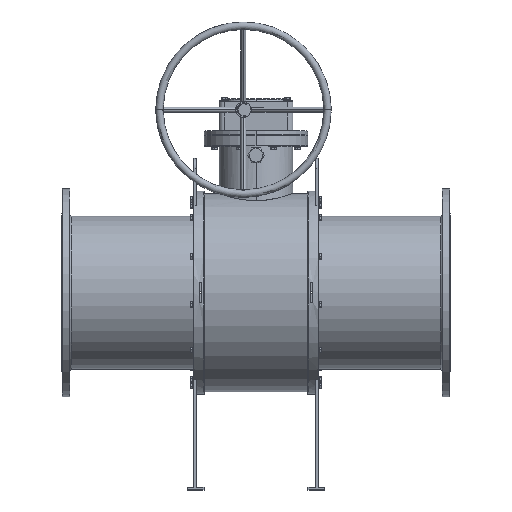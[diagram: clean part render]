
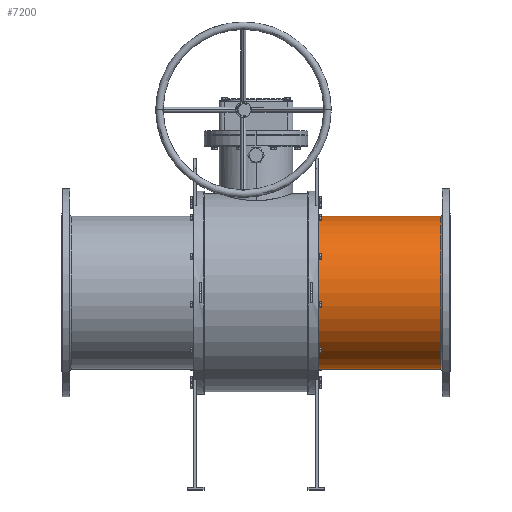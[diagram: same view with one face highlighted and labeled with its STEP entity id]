
A CAD part, top view. The second image highlights one B-rep face of the part: STEP entity #7200.
In plain terms, the highlighted cylindrical face has radius 305.75 mm (diameter 611.5 mm), a partial arc.
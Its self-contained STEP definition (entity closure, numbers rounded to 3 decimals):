
#50 = EDGE_CURVE ( 'NONE', #11883, #24318, #25825, .T. ) ;
#297 = CARTESIAN_POINT ( 'NONE',  ( -774.5, 0., 0. ) ) ;
#341 = VERTEX_POINT ( 'NONE', #16319 ) ;
#701 = CARTESIAN_POINT ( 'NONE',  ( 247.5, -305.75, 0. ) ) ;
#912 = EDGE_CURVE ( 'NONE', #341, #11883, #13859, .T. ) ;
#1498 = EDGE_CURVE ( 'NONE', #341, #5952, #6882, .T. ) ;
#2973 = ORIENTED_EDGE ( 'NONE', *, *, #1498, .F. ) ;
#4168 = ORIENTED_EDGE ( 'NONE', *, *, #50, .T. ) ;
#4450 = CYLINDRICAL_SURFACE ( 'NONE', #10322, 305.75 ) ;
#4490 = VECTOR ( 'NONE', #11195, 1000. ) ;
#4512 = AXIS2_PLACEMENT_3D ( 'NONE', #10683, #21115, #18893 ) ;
#4736 = CARTESIAN_POINT ( 'NONE',  ( 247.5, 305.75, 0. ) ) ;
#5952 = VERTEX_POINT ( 'NONE', #701 ) ;
#6882 = LINE ( 'NONE', #19539, #4490 ) ;
#7200 = ADVANCED_FACE ( 'NONE', ( #21433 ), #4450, .T. ) ;
#8250 = CARTESIAN_POINT ( 'NONE',  ( 247.5, 0., 0. ) ) ;
#8582 = EDGE_CURVE ( 'NONE', #24318, #5952, #17825, .T. ) ;
#10322 = AXIS2_PLACEMENT_3D ( 'NONE', #297, #17246, #25763 ) ;
#10646 = DIRECTION ( 'NONE',  ( -1., 0., 0. ) ) ;
#10683 = CARTESIAN_POINT ( 'NONE',  ( 737.5, 0., 0. ) ) ;
#11195 = DIRECTION ( 'NONE',  ( -1., 0., 0. ) ) ;
#11881 = CARTESIAN_POINT ( 'NONE',  ( 737.5, 305.75, 0. ) ) ;
#11883 = VERTEX_POINT ( 'NONE', #11881 ) ;
#12342 = ORIENTED_EDGE ( 'NONE', *, *, #8582, .T. ) ;
#12436 = DIRECTION ( 'NONE',  ( 1., 0., 0. ) ) ;
#13859 = CIRCLE ( 'NONE', #4512, 305.75 ) ;
#14734 = AXIS2_PLACEMENT_3D ( 'NONE', #8250, #12436, #21343 ) ;
#14891 = VECTOR ( 'NONE', #10646, 1000. ) ;
#16319 = CARTESIAN_POINT ( 'NONE',  ( 737.5, -305.75, 0. ) ) ;
#17169 = CARTESIAN_POINT ( 'NONE',  ( -774.5, 305.75, 0. ) ) ;
#17246 = DIRECTION ( 'NONE',  ( -1., 0., 0. ) ) ;
#17825 = CIRCLE ( 'NONE', #14734, 305.75 ) ;
#18893 = DIRECTION ( 'NONE',  ( 0., 1., 0. ) ) ;
#19005 = EDGE_LOOP ( 'NONE', ( #20116, #4168, #12342, #2973 ) ) ;
#19539 = CARTESIAN_POINT ( 'NONE',  ( -774.5, -305.75, 0. ) ) ;
#20116 = ORIENTED_EDGE ( 'NONE', *, *, #912, .T. ) ;
#21115 = DIRECTION ( 'NONE',  ( -1., 0., 0. ) ) ;
#21343 = DIRECTION ( 'NONE',  ( 0., 0., -1. ) ) ;
#21433 = FACE_OUTER_BOUND ( 'NONE', #19005, .T. ) ;
#24318 = VERTEX_POINT ( 'NONE', #4736 ) ;
#25763 = DIRECTION ( 'NONE',  ( 0., -1., 0. ) ) ;
#25825 = LINE ( 'NONE', #17169, #14891 ) ;
